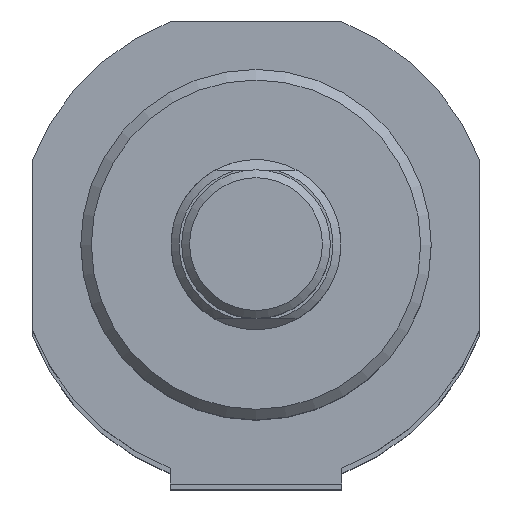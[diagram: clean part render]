
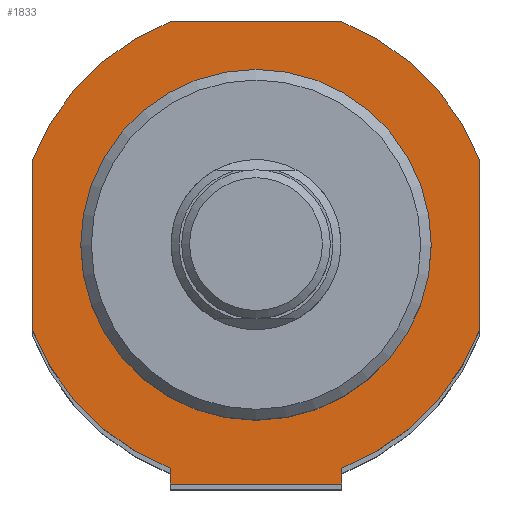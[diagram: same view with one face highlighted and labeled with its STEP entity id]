
A CAD part, top view. The second image highlights one B-rep face of the part: STEP entity #1833.
In plain terms, the highlighted planar face has unit normal (0, 0, 1).
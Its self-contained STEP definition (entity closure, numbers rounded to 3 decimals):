
#898=CARTESIAN_POINT('',(8.078,-22.5,349.));
#899=VERTEX_POINT('',#898);
#900=CARTESIAN_POINT('',(-8.078,-22.5,349.));
#901=VERTEX_POINT('',#900);
#902=CARTESIAN_POINT('',(8.078,-22.5,349.));
#903=DIRECTION('',(-1.0,0.0,0.0));
#904=VECTOR('',#903,16.155);
#905=LINE('',#902,#904);
#906=EDGE_CURVE('',#899,#901,#905,.T.);
#1054=CARTESIAN_POINT('',(-8.078,-21.,349.));
#1055=VERTEX_POINT('',#1054);
#1069=CARTESIAN_POINT('',(-8.078,-21.,349.));
#1070=DIRECTION('',(0.0,-1.0,0.0));
#1071=VECTOR('',#1070,1.5);
#1072=LINE('',#1069,#1071);
#1073=EDGE_CURVE('',#1055,#901,#1072,.T.);
#1085=CARTESIAN_POINT('',(8.078,-21.,349.));
#1086=VERTEX_POINT('',#1085);
#1093=CARTESIAN_POINT('',(8.078,-21.,349.));
#1094=DIRECTION('',(0.0,-1.0,0.0));
#1095=VECTOR('',#1094,1.5);
#1096=LINE('',#1093,#1095);
#1097=EDGE_CURVE('',#1086,#899,#1096,.T.);
#1561=CARTESIAN_POINT('',(16.5,0.,349.));
#1562=VERTEX_POINT('',#1561);
#1563=CARTESIAN_POINT('',(0.,0.,349.));
#1564=DIRECTION('',(0.0,0.0,-1.0));
#1565=DIRECTION('',(-1.0,0.0,0.0));
#1566=AXIS2_PLACEMENT_3D('',#1563,#1564,#1565);
#1567=CIRCLE('',#1566,16.5);
#1568=EDGE_CURVE('',#1562,#1562,#1567,.T.);
#1653=CARTESIAN_POINT('',(-8.078,21.,349.));
#1654=VERTEX_POINT('',#1653);
#1655=CARTESIAN_POINT('',(8.078,21.,349.));
#1656=VERTEX_POINT('',#1655);
#1657=CARTESIAN_POINT('',(-8.078,21.,349.));
#1658=DIRECTION('',(1.0,0.0,0.0));
#1659=VECTOR('',#1658,16.155);
#1660=LINE('',#1657,#1659);
#1661=EDGE_CURVE('',#1654,#1656,#1660,.T.);
#1684=CARTESIAN_POINT('',(21.,8.078,349.));
#1685=VERTEX_POINT('',#1684);
#1686=CARTESIAN_POINT('',(0.,0.,349.0));
#1687=DIRECTION('',(0.,0.,-1.0));
#1688=DIRECTION('',(0.933,0.359,0.));
#1689=AXIS2_PLACEMENT_3D('',#1686,#1687,#1688);
#1690=CIRCLE('',#1689,22.5);
#1691=EDGE_CURVE('',#1656,#1685,#1690,.T.);
#1709=CARTESIAN_POINT('',(21.,-8.078,349.));
#1710=VERTEX_POINT('',#1709);
#1711=CARTESIAN_POINT('',(21.,8.078,349.));
#1712=DIRECTION('',(0.0,-1.0,0.0));
#1713=VECTOR('',#1712,16.155);
#1714=LINE('',#1711,#1713);
#1715=EDGE_CURVE('',#1685,#1710,#1714,.T.);
#1733=CARTESIAN_POINT('',(0.,0.,349.0));
#1734=DIRECTION('',(0.,0.,-1.));
#1735=DIRECTION('',(0.359,-0.933,0.));
#1736=AXIS2_PLACEMENT_3D('',#1733,#1734,#1735);
#1737=CIRCLE('',#1736,22.5);
#1738=EDGE_CURVE('',#1710,#1086,#1737,.T.);
#1751=CARTESIAN_POINT('',(-21.,-8.078,349.));
#1752=VERTEX_POINT('',#1751);
#1753=CARTESIAN_POINT('',(0.,0.,349.0));
#1754=DIRECTION('',(0.,0.,-1.0));
#1755=DIRECTION('',(-0.933,-0.359,0.));
#1756=AXIS2_PLACEMENT_3D('',#1753,#1754,#1755);
#1757=CIRCLE('',#1756,22.5);
#1758=EDGE_CURVE('',#1055,#1752,#1757,.T.);
#1776=CARTESIAN_POINT('',(-21.,8.078,349.));
#1777=VERTEX_POINT('',#1776);
#1778=CARTESIAN_POINT('',(-21.,-8.078,349.));
#1779=DIRECTION('',(0.0,1.0,0.0));
#1780=VECTOR('',#1779,16.155);
#1781=LINE('',#1778,#1780);
#1782=EDGE_CURVE('',#1752,#1777,#1781,.T.);
#1800=CARTESIAN_POINT('',(0.,0.,349.0));
#1801=DIRECTION('',(0.,0.,-1.));
#1802=DIRECTION('',(-0.359,0.933,0.));
#1803=AXIS2_PLACEMENT_3D('',#1800,#1801,#1802);
#1804=CIRCLE('',#1803,22.5);
#1805=EDGE_CURVE('',#1777,#1654,#1804,.T.);
#1813=CARTESIAN_POINT('',(0.,0.0,349.));
#1814=DIRECTION('',(0.0,0.0,1.0));
#1815=DIRECTION('',(1.0,0.0,0.0));
#1816=AXIS2_PLACEMENT_3D('',#1813,#1814,#1815);
#1817=PLANE('',#1816);
#1818=ORIENTED_EDGE('',*,*,#1661,.F.);
#1819=ORIENTED_EDGE('',*,*,#1805,.F.);
#1820=ORIENTED_EDGE('',*,*,#1782,.F.);
#1821=ORIENTED_EDGE('',*,*,#1758,.F.);
#1822=ORIENTED_EDGE('',*,*,#1073,.T.);
#1823=ORIENTED_EDGE('',*,*,#906,.F.);
#1824=ORIENTED_EDGE('',*,*,#1097,.F.);
#1825=ORIENTED_EDGE('',*,*,#1738,.F.);
#1826=ORIENTED_EDGE('',*,*,#1715,.F.);
#1827=ORIENTED_EDGE('',*,*,#1691,.F.);
#1828=EDGE_LOOP('',(#1818,#1819,#1820,#1821,#1822,#1823,#1824,#1825,#1826,#1827));
#1829=FACE_OUTER_BOUND('',#1828,.T.);
#1830=ORIENTED_EDGE('',*,*,#1568,.T.);
#1831=EDGE_LOOP('',(#1830));
#1832=FACE_BOUND('',#1831,.T.);
#1833=ADVANCED_FACE('',(#1829,#1832),#1817,.T.);
